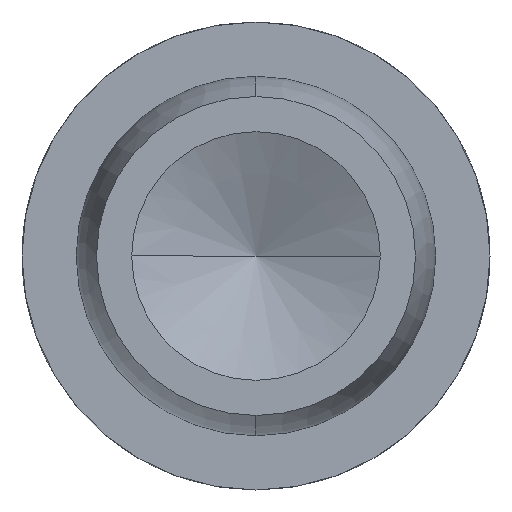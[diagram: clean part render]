
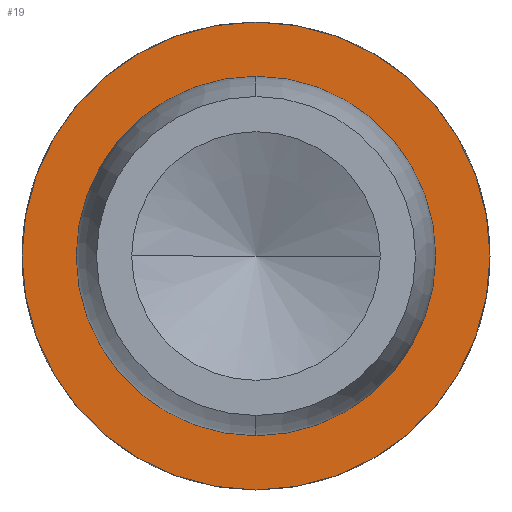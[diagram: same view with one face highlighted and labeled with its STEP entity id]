
A CAD part, left-side view. The second image highlights one B-rep face of the part: STEP entity #19.
In plain terms, the highlighted planar face has unit normal (-1, 0, 0).
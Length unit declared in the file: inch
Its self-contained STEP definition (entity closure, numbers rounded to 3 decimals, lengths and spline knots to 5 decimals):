
#19 = ADVANCED_FACE ( 'NONE', ( #537, #354 ), #842, .T. ) ;
#35 = CIRCLE ( 'NONE', #741, 0.24 ) ;
#58 = CARTESIAN_POINT ( 'NONE',  ( -1.125, 0., 0. ) ) ;
#82 = ORIENTED_EDGE ( 'NONE', *, *, #402, .F. ) ;
#87 = VERTEX_POINT ( 'NONE', #802 ) ;
#136 = DIRECTION ( 'NONE',  ( 0., 0., 1. ) ) ;
#139 = DIRECTION ( 'NONE',  ( -1., 0., 0. ) ) ;
#230 = DIRECTION ( 'NONE',  ( 0., 0., 1. ) ) ;
#232 = DIRECTION ( 'NONE',  ( -1., 0., 0. ) ) ;
#233 = CARTESIAN_POINT ( 'NONE',  ( -1.125, 0., 0. ) ) ;
#275 = CARTESIAN_POINT ( 'NONE',  ( -1.125, 0., -0.24 ) ) ;
#292 = VERTEX_POINT ( 'NONE', #662 ) ;
#338 = CIRCLE ( 'NONE', #563, 0.24 ) ;
#353 = DIRECTION ( 'NONE',  ( 0., 0., 1. ) ) ;
#354 = FACE_BOUND ( 'NONE', #927, .T. ) ;
#355 = DIRECTION ( 'NONE',  ( -1., 0., 0. ) ) ;
#358 = CARTESIAN_POINT ( 'NONE',  ( -1.125, 0., 0. ) ) ;
#402 = EDGE_CURVE ( 'NONE', #87, #1133, #35, .T. ) ;
#415 = VERTEX_POINT ( 'NONE', #517 ) ;
#487 = DIRECTION ( 'NONE',  ( 0., 0., 1. ) ) ;
#488 = DIRECTION ( 'NONE',  ( -1., 0., 0. ) ) ;
#490 = CARTESIAN_POINT ( 'NONE',  ( -1.125, 0., 0. ) ) ;
#517 = CARTESIAN_POINT ( 'NONE',  ( -1.125, 0., 0.3125 ) ) ;
#536 = EDGE_CURVE ( 'NONE', #292, #415, #600, .T. ) ;
#537 = FACE_OUTER_BOUND ( 'NONE', #717, .T. ) ;
#563 = AXIS2_PLACEMENT_3D ( 'NONE', #58, #139, #136 ) ;
#600 = CIRCLE ( 'NONE', #1083, 0.3125 ) ;
#659 = ORIENTED_EDGE ( 'NONE', *, *, #695, .T. ) ;
#662 = CARTESIAN_POINT ( 'NONE',  ( -1.125, 0., -0.3125 ) ) ;
#695 = EDGE_CURVE ( 'NONE', #415, #292, #834, .T. ) ;
#698 = AXIS2_PLACEMENT_3D ( 'NONE', #815, #813, #811 ) ;
#717 = EDGE_LOOP ( 'NONE', ( #659, #731 ) ) ;
#731 = ORIENTED_EDGE ( 'NONE', *, *, #536, .T. ) ;
#741 = AXIS2_PLACEMENT_3D ( 'NONE', #490, #488, #487 ) ;
#802 = CARTESIAN_POINT ( 'NONE',  ( -1.125, 0., 0.24 ) ) ;
#811 = DIRECTION ( 'NONE',  ( 0., 0., 1. ) ) ;
#813 = DIRECTION ( 'NONE',  ( -1., 0., 0. ) ) ;
#815 = CARTESIAN_POINT ( 'NONE',  ( -1.125, 0., -0.24 ) ) ;
#829 = EDGE_CURVE ( 'NONE', #1133, #87, #338, .T. ) ;
#834 = CIRCLE ( 'NONE', #1065, 0.3125 ) ;
#842 = PLANE ( 'NONE',  #698 ) ;
#927 = EDGE_LOOP ( 'NONE', ( #82, #1013 ) ) ;
#1013 = ORIENTED_EDGE ( 'NONE', *, *, #829, .F. ) ;
#1065 = AXIS2_PLACEMENT_3D ( 'NONE', #233, #232, #230 ) ;
#1083 = AXIS2_PLACEMENT_3D ( 'NONE', #358, #355, #353 ) ;
#1133 = VERTEX_POINT ( 'NONE', #275 ) ;
